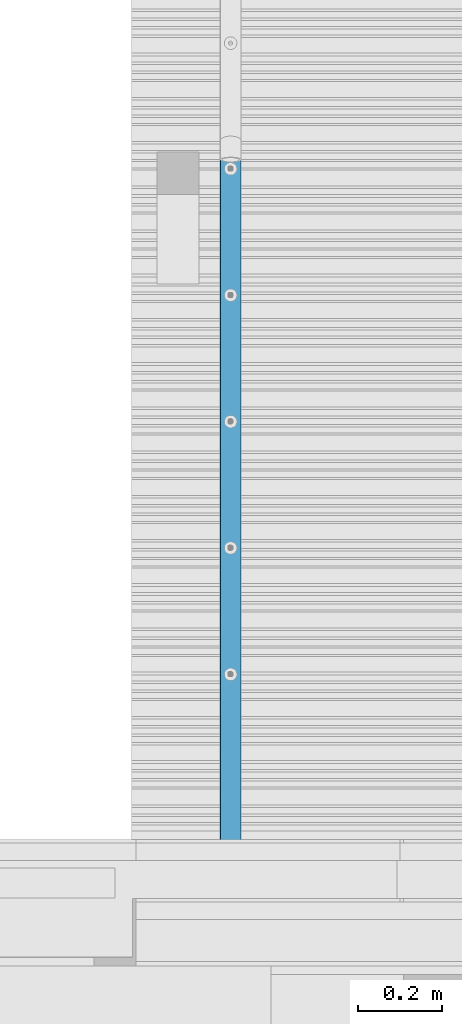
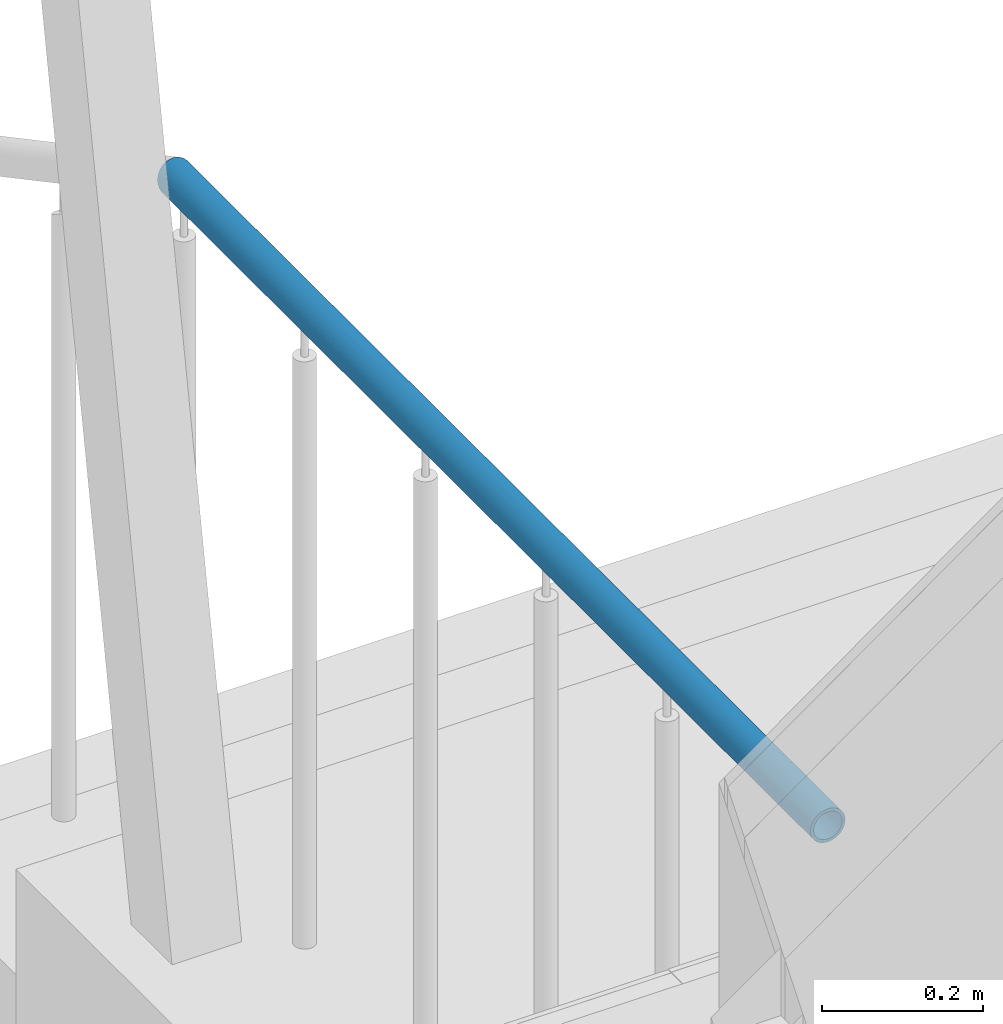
# One storey, part 120 of 418: 1 building element part, 2 elements without a shape of their own.
"""IFC2X3 building model written with IfcOpenShell, lengths in millimetres."""

from ifc_helpers import new_model, entity, si_unit, converted_unit, derived_unit, money_unit, direction, frame, origin_with_axes, place, context, subcontext, project, spatial, faceted_brep, material, type_object, element, aggregate, save


model = new_model("IFC2X3")

# Units and contexts
model_context = context("Model", 3, precision=0.01, world=origin_with_axes(), true_north=direction((0.0, 1.0)))
body_context = subcontext(model_context, "Body", "Model", "MODEL_VIEW")
ifc_project = project(units=[si_unit("LENGTHUNIT", "METRE", prefix="MILLI"), si_unit("AREAUNIT", "SQUARE_METRE"), si_unit("VOLUMEUNIT", "CUBIC_METRE"), converted_unit("PLANEANGLEUNIT", "DEGREE", entity("IfcPlaneAngleMeasure", 0.0174532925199), si_unit("PLANEANGLEUNIT", "RADIAN"), dimensions=[0, 0, 0, 0, 0, 0, 0]), si_unit("SOLIDANGLEUNIT", "STERADIAN"), money_unit("EUR"), converted_unit("TIMEUNIT", "Year", entity("IfcTimeMeasure", 31556926.0), si_unit("TIMEUNIT", "SECOND"), dimensions=[0, 0, 1, 0, 0, 0, 0]), si_unit("MASSUNIT", "GRAM", prefix="KILO"), si_unit("THERMODYNAMICTEMPERATUREUNIT", "DEGREE_CELSIUS"), si_unit("LUMINOUSINTENSITYUNIT", "LUMEN"), si_unit("ENERGYUNIT", "JOULE", prefix="MEGA"), derived_unit("THERMALCONDUCTANCEUNIT", [(si_unit("POWERUNIT", "WATT"), 1), (si_unit("LENGTHUNIT", "METRE"), -1), (si_unit("THERMODYNAMICTEMPERATUREUNIT", "KELVIN"), -1)]), derived_unit("SPECIFICHEATCAPACITYUNIT", [(si_unit("ENERGYUNIT", "JOULE"), 1), (si_unit("MASSUNIT", "GRAM", prefix="KILO"), -1), (si_unit("THERMODYNAMICTEMPERATUREUNIT", "KELVIN"), -1)]), derived_unit("MASSDENSITYUNIT", [(si_unit("MASSUNIT", "GRAM", prefix="KILO"), 1), (si_unit("VOLUMEUNIT", "CUBIC_METRE"), -1)])], contexts=[model_context])

# Site, building, storey
site_placement = place(None, origin_with_axes())
site = spatial("IfcSite", under=ifc_project, at=site_placement, Name="Paldiski mnt 245/1, Tallinn, Harjumaa", CompositionType="COMPLEX")
building_placement = place(site_placement, origin_with_axes())
building = spatial("IfcBuilding", under=site, at=building_placement, Name="RKAS Hoone üldnimetus (kasutust iseloomustav) -> IFC Project Manager -> SOLIBRI", CompositionType="ELEMENT")
storey_placement = place(building_placement, origin_with_axes())
storey = spatial("IfcBuildingStorey", under=building, at=storey_placement, Name="Esimene korrus", CompositionType="ELEMENT", Elevation=0.0)

# Proxies, building element part
building_element_proxy_type_1 = type_object("IfcBuildingElementProxyType", Name="Railing Type", PredefinedType="NOTDEFINED")
proxy_1_placement = place(storey_placement, frame((-41536.0, 460.000000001, -500.846302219), z_axis=(0.0, 0.0, 1.0), x_axis=(1.0, 0.0, 0.0)))
proxy_1 = element("IfcBuildingElementProxy", 1, at=proxy_1_placement, inside=storey, type_object=building_element_proxy_type_1, Name="Trepipiire")
building_element_proxy_type_2 = type_object("IfcBuildingElementProxyType", Name="IfcBuildingElementProxy", PredefinedType="NOTDEFINED")
proxy_2_placement = place(proxy_1_placement, frame((0.0, 855.900250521, 1424.94460278), z_axis=(0.0, 0.0, 1.0), x_axis=(1.0, 0.0, 0.0)))
proxy_2 = element("IfcBuildingElementProxy", 2, at=proxy_2_placement, type_object=building_element_proxy_type_2, Name="ÜL PIIRE - 001")
aggregate(proxy_1, [proxy_2])
ifc_material = material(Name="RAL7016")
building_element_part_placement = place(proxy_2_placement, origin_with_axes())
building_element_part = element("IfcBuildingElementPart", 3, at=building_element_part_placement, material=ifc_material, Name="RAL7016", context=body_context, shape_type="Brep", body=[
    faceted_brep([(-25.0, -813.900250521, 30.9016994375), (-24.6201938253, -813.900250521, 35.2429038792), (-24.6201938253, 808.728738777, 35.2429038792), (-25.0, 807.642006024, 30.9016994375), (-24.6201938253, -813.900250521, 26.5604949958), (-23.4923155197, -813.900250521, 22.3511958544), (-21.6506350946, -813.900250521, 18.4016994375), (-19.151111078, -813.900250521, 14.8320091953), (-16.0696902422, -813.900250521, 11.7505883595), (-12.5, -813.900250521, 9.25106434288), (-8.55050358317, -813.900250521, 7.40938391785), (-4.3412044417, -813.900250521, 6.28150561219), (0.0, -813.900250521, 5.90169943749), (4.34120444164, -813.900250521, 6.28150561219), (8.55050358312, -813.900250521, 7.40938391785), (12.5, -813.900250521, 9.25106434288), (16.0696902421, -813.900250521, 11.7505883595), (19.1511110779, -813.900250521, 14.8320091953), (21.6506350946, -813.900250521, 18.4016994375), (23.4923155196, -813.900250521, 22.3511958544), (24.6201938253, -813.900250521, 26.5604949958), (25.0, -813.900250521, 30.9016994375), (24.6201938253, -813.900250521, 35.2429038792), (23.4923155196, -813.900250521, 39.4522030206), (21.6506350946, -813.900250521, 43.4016994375), (19.1511110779, -813.900250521, 46.9713896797), (16.0696902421, -813.900250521, 50.0528105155), (12.5, -813.900250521, 52.5523345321), (8.55050358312, -813.900250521, 54.3940149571), (4.34120444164, -813.900250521, 55.5218932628), (0.0, -813.900250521, 55.9016994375), (-4.3412044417, -813.900250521, 55.5218932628), (-8.55050358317, -813.900250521, 54.3940149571), (-12.5, -813.900250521, 52.5523345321), (-16.0696902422, -813.900250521, 50.0528105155), (-19.151111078, -813.900250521, 46.9713896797), (-21.6506350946, -813.900250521, 43.4016994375), (-23.4923155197, -813.900250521, 39.4522030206), (-20.5, -813.900250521, 30.9016994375), (-20.1885589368, -813.900250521, 34.4614870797), (-19.2636987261, -813.900250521, 37.9131123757), (-17.7535207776, -813.900250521, 41.1516994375), (-15.703911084, -813.900250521, 44.0788454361), (-13.1771459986, -813.900250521, 46.6056105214), (-10.25, -813.900250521, 48.6552202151), (-7.0114129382, -813.900250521, 50.1653981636), (-3.5597876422, -813.900250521, 51.0902583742), (0.0, -813.900250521, 51.4016994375), (3.55978764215, -813.900250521, 51.0902583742), (7.01141293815, -813.900250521, 50.1653981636), (10.25, -813.900250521, 48.6552202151), (13.1771459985, -813.900250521, 46.6056105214), (15.7039110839, -813.900250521, 44.0788454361), (17.7535207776, -813.900250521, 41.1516994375), (19.2636987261, -813.900250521, 37.9131123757), (20.1885589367, -813.900250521, 34.4614870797), (20.5, -813.900250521, 30.9016994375), (20.1885589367, -813.900250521, 27.3419117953), (19.2636987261, -813.900250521, 23.8902864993), (17.7535207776, -813.900250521, 20.6516994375), (15.7039110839, -813.900250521, 17.7245534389), (13.1771459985, -813.900250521, 15.1977883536), (10.25, -813.900250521, 13.1481786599), (7.01141293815, -813.900250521, 11.6380007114), (3.55978764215, -813.900250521, 10.7131405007), (0.0, -813.900250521, 10.4016994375), (-3.5597876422, -813.900250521, 10.7131405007), (-7.0114129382, -813.900250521, 11.6380007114), (-10.25, -813.900250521, 13.1481786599), (-13.1771459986, -813.900250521, 15.1977883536), (-15.703911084, -813.900250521, 17.7245534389), (-17.7535207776, -813.900250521, 20.6516994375), (-19.2636987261, -813.900250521, 23.8902864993), (-20.1885589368, -813.900250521, 27.3419117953), (-23.4923155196, 809.782451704, 39.4522030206), (-21.6506350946, 810.771128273, 43.4016994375), (-19.1511110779, 811.664728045, 46.9713896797), (-16.0696902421, 812.436099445, 50.0528105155), (-12.5, 813.061804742, 52.5523345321), (-8.55050358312, 813.522832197, 54.3940149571), (-4.34120444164, 813.805173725, 55.5218932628), (0.0, 813.900250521, 55.9016994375), (4.3412044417, 813.805173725, 55.5218932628), (8.55050358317, 813.522832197, 54.3940149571), (12.5, 813.061804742, 52.5523345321), (16.0696902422, 812.436099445, 50.0528105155), (19.151111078, 811.664728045, 46.9713896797), (21.6506350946, 810.771128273, 43.4016994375), (23.4923155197, 809.782451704, 39.4522030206), (24.6201938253, 808.728738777, 35.2429038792), (25.0, 807.642006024, 30.9016994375), (24.6201938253, 806.555273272, 26.5604949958), (23.4923155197, 805.501560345, 22.3511958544), (21.6506350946, 804.512883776, 18.4016994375), (19.151111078, 803.619284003, 14.8320091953), (16.0696902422, 802.847912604, 11.7505883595), (12.5, 802.222207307, 9.25106434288), (8.55050358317, 801.761179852, 7.40938391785), (4.3412044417, 801.478838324, 6.28150561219), (0.0, 801.383761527, 5.90169943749), (-4.34120444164, 801.478838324, 6.28150561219), (-8.55050358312, 801.761179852, 7.40938391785), (-12.5, 802.222207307, 9.25106434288), (-16.0696902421, 802.847912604, 11.7505883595), (-19.1511110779, 803.619284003, 14.8320091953), (-21.6506350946, 804.512883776, 18.4016994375), (-23.4923155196, 805.501560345, 22.3511958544), (-24.6201938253, 806.555273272, 26.5604949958), (-20.5, 807.642006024, 30.9016994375), (-20.1885589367, 806.750885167, 27.3419117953), (-19.2636987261, 805.886840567, 23.8902864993), (-17.7535207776, 805.076125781, 20.6516994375), (-15.7039110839, 804.343373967, 17.7245534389), (-13.1771459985, 803.71084942, 15.1977883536), (-10.25, 803.197771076, 13.1481786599), (-7.01141293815, 802.819728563, 11.6380007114), (-3.55978764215, 802.58820851, 10.7131405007), (0.0, 802.510245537, 10.4016994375), (3.5597876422, 802.58820851, 10.7131405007), (7.0114129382, 802.819728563, 11.6380007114), (10.25, 803.197771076, 13.1481786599), (13.1771459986, 803.71084942, 15.1977883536), (15.703911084, 804.343373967, 17.7245534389), (17.7535207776, 805.076125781, 20.6516994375), (19.2636987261, 805.886840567, 23.8902864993), (20.1885589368, 806.750885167, 27.3419117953), (20.5, 807.642006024, 30.9016994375), (20.1885589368, 808.533126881, 34.4614870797), (19.2636987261, 809.397171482, 37.9131123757), (17.7535207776, 810.207886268, 41.1516994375), (15.703911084, 810.940638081, 44.0788454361), (13.1771459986, 811.573162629, 46.6056105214), (10.25, 812.086240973, 48.6552202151), (7.0114129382, 812.464283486, 50.1653981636), (3.5597876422, 812.695803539, 51.0902583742), (0.0, 812.773766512, 51.4016994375), (-3.55978764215, 812.695803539, 51.0902583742), (-7.01141293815, 812.464283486, 50.1653981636), (-10.25, 812.086240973, 48.6552202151), (-13.1771459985, 811.573162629, 46.6056105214), (-15.7039110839, 810.940638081, 44.0788454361), (-17.7535207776, 810.207886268, 41.1516994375), (-19.2636987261, 809.397171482, 37.9131123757), (-20.1885589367, 808.533126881, 34.4614870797)], [[[0, 1, 2, 3]], [[0, 4, 5, 6, 7, 8, 9, 10, 11, 12, 13, 14, 15, 16, 17, 18, 19, 20, 21, 22, 23, 24, 25, 26, 27, 28, 29, 30, 31, 32, 33, 34, 35, 36, 37, 1], [38, 39, 40, 41, 42, 43, 44, 45, 46, 47, 48, 49, 50, 51, 52, 53, 54, 55, 56, 57, 58, 59, 60, 61, 62, 63, 64, 65, 66, 67, 68, 69, 70, 71, 72, 73]], [[1, 37, 74, 2]], [[3, 2, 74, 75, 76, 77, 78, 79, 80, 81, 82, 83, 84, 85, 86, 87, 88, 89, 90, 91, 92, 93, 94, 95, 96, 97, 98, 99, 100, 101, 102, 103, 104, 105, 106, 107], [108, 109, 110, 111, 112, 113, 114, 115, 116, 117, 118, 119, 120, 121, 122, 123, 124, 125, 126, 127, 128, 129, 130, 131, 132, 133, 134, 135, 136, 137, 138, 139, 140, 141, 142, 143]], [[4, 0, 3, 107]], [[5, 4, 107, 106]], [[6, 5, 106, 105]], [[7, 6, 105, 104]], [[8, 7, 104, 103]], [[9, 8, 103, 102]], [[10, 9, 102, 101]], [[11, 10, 101, 100]], [[12, 11, 100, 99]], [[13, 12, 99, 98]], [[14, 13, 98, 97]], [[15, 14, 97, 96]], [[16, 15, 96, 95]], [[17, 16, 95, 94]], [[18, 17, 94, 93]], [[19, 18, 93, 92]], [[20, 19, 92, 91]], [[21, 20, 91, 90]], [[22, 21, 90, 89]], [[23, 22, 89, 88]], [[24, 23, 88, 87]], [[25, 24, 87, 86]], [[26, 25, 86, 85]], [[27, 26, 85, 84]], [[28, 27, 84, 83]], [[29, 28, 83, 82]], [[30, 29, 82, 81]], [[31, 30, 81, 80]], [[32, 31, 80, 79]], [[33, 32, 79, 78]], [[34, 33, 78, 77]], [[35, 34, 77, 76]], [[36, 35, 76, 75]], [[37, 36, 75, 74]], [[39, 38, 108, 143]], [[40, 39, 143, 142]], [[41, 40, 142, 141]], [[42, 41, 141, 140]], [[43, 42, 140, 139]], [[44, 43, 139, 138]], [[45, 44, 138, 137]], [[46, 45, 137, 136]], [[47, 46, 136, 135]], [[48, 47, 135, 134]], [[49, 48, 134, 133]], [[50, 49, 133, 132]], [[51, 50, 132, 131]], [[52, 51, 131, 130]], [[53, 52, 130, 129]], [[54, 53, 129, 128]], [[55, 54, 128, 127]], [[56, 55, 127, 126]], [[57, 56, 126, 125]], [[58, 57, 125, 124]], [[59, 58, 124, 123]], [[60, 59, 123, 122]], [[61, 60, 122, 121]], [[62, 61, 121, 120]], [[63, 62, 120, 119]], [[64, 63, 119, 118]], [[65, 64, 118, 117]], [[66, 65, 117, 116]], [[67, 66, 116, 115]], [[68, 67, 115, 114]], [[69, 68, 114, 113]], [[70, 69, 113, 112]], [[71, 70, 112, 111]], [[72, 71, 111, 110]], [[73, 72, 110, 109]], [[38, 73, 109, 108]]]),
])
aggregate(proxy_2, [building_element_part])

save(model, "model.ifc")
